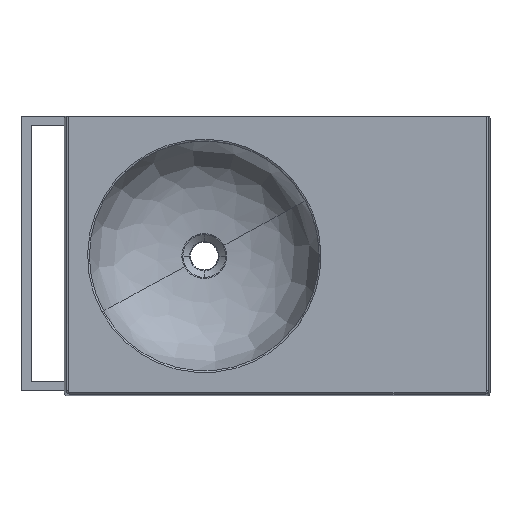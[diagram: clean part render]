
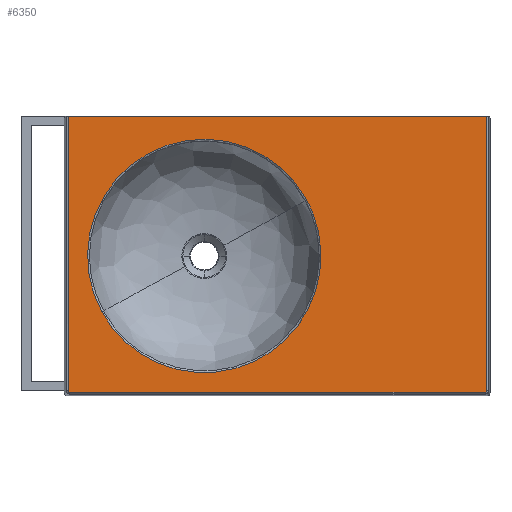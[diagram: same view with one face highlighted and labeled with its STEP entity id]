
A CAD part, top view. The second image highlights one B-rep face of the part: STEP entity #6350.
In plain terms, the highlighted planar face has unit normal (0, 0, -1).
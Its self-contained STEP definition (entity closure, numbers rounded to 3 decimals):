
#6257=AXIS2_PLACEMENT_3D('Plane Axis2P3D',#6254,#6255,#6256) ;
#6326=AXIS2_PLACEMENT_3D('Circle Axis2P3D',#6324,#6325,$) ;
#6335=AXIS2_PLACEMENT_3D('Circle Axis2P3D',#6333,#6334,$) ;
#6342=AXIS2_PLACEMENT_3D('Circle Axis2P3D',#6340,#6341,$) ;
#4467=CARTESIAN_POINT('Vertex',(379.274,226.,140.)) ;
#4470=CARTESIAN_POINT('Line Origine',(35.,226.,140.)) ;
#4474=CARTESIAN_POINT('Vertex',(-309.274,226.,140.)) ;
#6254=CARTESIAN_POINT('Axis2P3D Location',(-315.147,-4.096,140.)) ;
#6260=CARTESIAN_POINT('Control Point',(379.274,-226.32,140.)) ;
#6261=CARTESIAN_POINT('Control Point',(379.274,-226.528,140.)) ;
#6262=CARTESIAN_POINT('Control Point',(379.247,-226.735,140.)) ;
#6263=CARTESIAN_POINT('Control Point',(379.193,-226.939,140.)) ;
#6264=CARTESIAN_POINT('Control Point',(379.034,-227.326,140.)) ;
#6265=CARTESIAN_POINT('Control Point',(378.78,-227.66,140.)) ;
#6266=CARTESIAN_POINT('Control Point',(378.632,-227.81,140.)) ;
#6267=CARTESIAN_POINT('Control Point',(378.302,-228.067,140.)) ;
#6268=CARTESIAN_POINT('Control Point',(377.916,-228.231,140.)) ;
#6269=CARTESIAN_POINT('Control Point',(377.713,-228.288,140.)) ;
#6270=CARTESIAN_POINT('Control Point',(377.501,-228.318,140.)) ;
#6271=CARTESIAN_POINT('Control Point',(377.288,-228.32,140.)) ;
#6272=CARTESIAN_POINT('Control Point',(377.283,-228.32,140.)) ;
#6273=CARTESIAN_POINT('Control Point',(377.278,-228.32,140.)) ;
#6274=CARTESIAN_POINT('Control Point',(377.274,-228.32,140.)) ;
#6275=CARTESIAN_POINT('Vertex',(377.274,-228.32,140.)) ;
#6277=CARTESIAN_POINT('Vertex',(379.274,-226.32,140.)) ;
#6280=CARTESIAN_POINT('Line Origine',(35.,-228.32,140.)) ;
#6284=CARTESIAN_POINT('Vertex',(-307.274,-228.32,140.)) ;
#6288=CARTESIAN_POINT('Control Point',(-307.274,-228.32,140.)) ;
#6289=CARTESIAN_POINT('Control Point',(-307.481,-228.32,140.)) ;
#6290=CARTESIAN_POINT('Control Point',(-307.689,-228.293,140.)) ;
#6291=CARTESIAN_POINT('Control Point',(-307.892,-228.239,140.)) ;
#6292=CARTESIAN_POINT('Control Point',(-308.28,-228.08,140.)) ;
#6293=CARTESIAN_POINT('Control Point',(-308.614,-227.826,140.)) ;
#6294=CARTESIAN_POINT('Control Point',(-308.764,-227.679,140.)) ;
#6295=CARTESIAN_POINT('Control Point',(-309.021,-227.348,140.)) ;
#6296=CARTESIAN_POINT('Control Point',(-309.185,-226.962,140.)) ;
#6297=CARTESIAN_POINT('Control Point',(-309.242,-226.76,140.)) ;
#6298=CARTESIAN_POINT('Control Point',(-309.272,-226.547,140.)) ;
#6299=CARTESIAN_POINT('Control Point',(-309.274,-226.334,140.)) ;
#6300=CARTESIAN_POINT('Control Point',(-309.274,-226.329,140.)) ;
#6301=CARTESIAN_POINT('Control Point',(-309.274,-226.325,140.)) ;
#6302=CARTESIAN_POINT('Control Point',(-309.274,-226.32,140.)) ;
#6303=CARTESIAN_POINT('Vertex',(-309.274,-226.32,140.)) ;
#6306=CARTESIAN_POINT('Line Origine',(-309.274,-0.16,140.)) ;
#6311=CARTESIAN_POINT('Line Origine',(379.274,-0.16,140.)) ;
#6324=CARTESIAN_POINT('Axis2P3D Location',(-85.05,-4.096,140.)) ;
#6328=CARTESIAN_POINT('Vertex',(83.454,87.958,140.)) ;
#6330=CARTESIAN_POINT('Vertex',(-253.554,-96.151,140.)) ;
#6333=CARTESIAN_POINT('Axis2P3D Location',(-85.05,-4.096,140.)) ;
#6337=CARTESIAN_POINT('Vertex',(94.199,64.732,140.)) ;
#6340=CARTESIAN_POINT('Axis2P3D Location',(-85.05,-4.096,140.)) ;
#4471=DIRECTION('Vector Direction',(1.,0.,0.)) ;
#6255=DIRECTION('Axis2P3D Direction',(0.,0.,1.)) ;
#6256=DIRECTION('Axis2P3D XDirection',(1.,0.,0.)) ;
#6281=DIRECTION('Vector Direction',(-1.,0.,0.)) ;
#6307=DIRECTION('Vector Direction',(0.,-1.,0.)) ;
#6312=DIRECTION('Vector Direction',(0.,1.,0.)) ;
#6325=DIRECTION('Axis2P3D Direction',(0.,0.,1.)) ;
#6334=DIRECTION('Axis2P3D Direction',(0.,0.,1.)) ;
#6341=DIRECTION('Axis2P3D Direction',(0.,0.,1.)) ;
#4472=VECTOR('Line Direction',#4471,1.) ;
#6282=VECTOR('Line Direction',#6281,1.) ;
#6308=VECTOR('Line Direction',#6307,1.) ;
#6313=VECTOR('Line Direction',#6312,1.) ;
#6317=ORIENTED_EDGE('',*,*,#6279,.F.) ;
#6318=ORIENTED_EDGE('',*,*,#6286,.F.) ;
#6319=ORIENTED_EDGE('',*,*,#6305,.F.) ;
#6320=ORIENTED_EDGE('',*,*,#6310,.F.) ;
#6321=ORIENTED_EDGE('',*,*,#4476,.T.) ;
#6322=ORIENTED_EDGE('',*,*,#6315,.F.) ;
#6346=ORIENTED_EDGE('',*,*,#6332,.T.) ;
#6347=ORIENTED_EDGE('',*,*,#6339,.T.) ;
#6348=ORIENTED_EDGE('',*,*,#6344,.T.) ;
#6349=FACE_BOUND('',#6345,.T.) ;
#6350=ADVANCED_FACE('Trasla.3',(#6323,#6349),#6258,.F.) ;
#6259=B_SPLINE_CURVE_WITH_KNOTS('',5,(#6260,#6261,#6262,#6263,#6264,#6265,#6266,#6267,#6268,#6269,#6270,#6271,#6272,#6273,#6274),.UNSPECIFIED.,.F.,.U.,(6,3,3,3,6),(0.,1.481,2.962,4.444,4.479),.UNSPECIFIED.) ;
#6287=B_SPLINE_CURVE_WITH_KNOTS('',5,(#6288,#6289,#6290,#6291,#6292,#6293,#6294,#6295,#6296,#6297,#6298,#6299,#6300,#6301,#6302),.UNSPECIFIED.,.F.,.U.,(6,3,3,3,6),(0.,1.48,2.959,4.438,4.473),.UNSPECIFIED.) ;
#6327=CIRCLE('generated circle',#6326,192.009) ;
#6336=CIRCLE('generated circle',#6335,192.009) ;
#6343=CIRCLE('generated circle',#6342,192.009) ;
#4476=EDGE_CURVE('',#4475,#4468,#4473,.T.) ;
#6279=EDGE_CURVE('',#6276,#6278,#6259,.F.) ;
#6286=EDGE_CURVE('',#6285,#6276,#6283,.F.) ;
#6305=EDGE_CURVE('',#6304,#6285,#6287,.F.) ;
#6310=EDGE_CURVE('',#4475,#6304,#6309,.T.) ;
#6315=EDGE_CURVE('',#6278,#4468,#6314,.T.) ;
#6332=EDGE_CURVE('',#6329,#6331,#6327,.T.) ;
#6339=EDGE_CURVE('',#6331,#6338,#6336,.T.) ;
#6344=EDGE_CURVE('',#6338,#6329,#6343,.T.) ;
#6316=EDGE_LOOP('',(#6317,#6318,#6319,#6320,#6321,#6322)) ;
#6345=EDGE_LOOP('',(#6346,#6347,#6348)) ;
#6323=FACE_OUTER_BOUND('',#6316,.T.) ;
#4473=LINE('Line',#4470,#4472) ;
#6283=LINE('Line',#6280,#6282) ;
#6309=LINE('Line',#6306,#6308) ;
#6314=LINE('Line',#6311,#6313) ;
#6258=PLANE('Plane',#6257) ;
#4468=VERTEX_POINT('',#4467) ;
#4475=VERTEX_POINT('',#4474) ;
#6276=VERTEX_POINT('',#6275) ;
#6278=VERTEX_POINT('',#6277) ;
#6285=VERTEX_POINT('',#6284) ;
#6304=VERTEX_POINT('',#6303) ;
#6329=VERTEX_POINT('',#6328) ;
#6331=VERTEX_POINT('',#6330) ;
#6338=VERTEX_POINT('',#6337) ;
